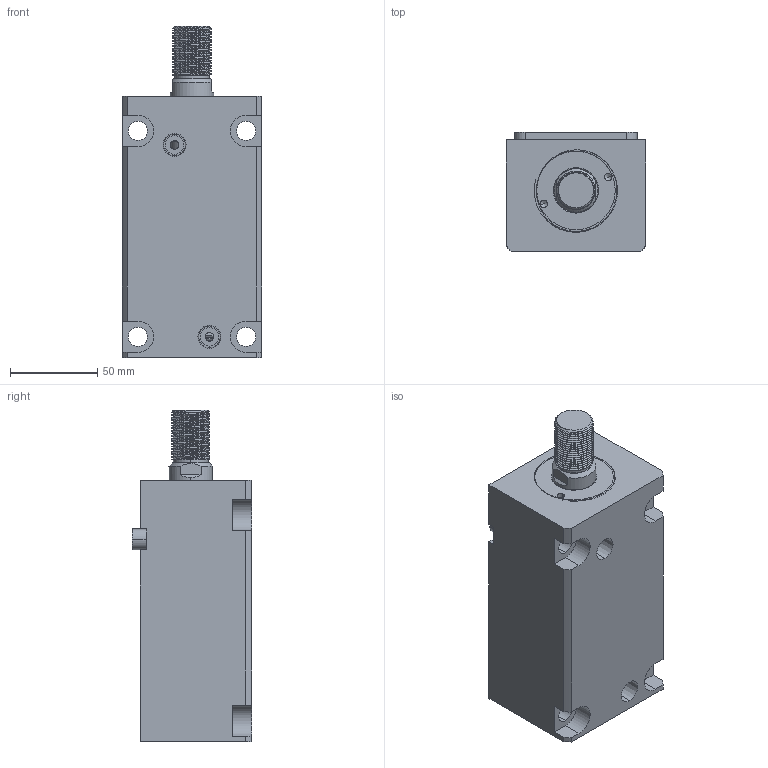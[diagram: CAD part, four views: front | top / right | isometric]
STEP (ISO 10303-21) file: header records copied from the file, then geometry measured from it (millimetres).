
FILE_DESCRIPTION (( 'STEP AP214' ), '1' );
FILE_NAME ('chtb-la40x95w_asm.STEP', '2018-06-02T08:37:52', ( 'Windows' ), ( 'Microsoft' ), 'SwSTEP 2.0', 'SolidWorks 2015', '' );
FILE_SCHEMA (( 'AUTOMOTIVE_DESIGN' ));
Length unit declared in the file: millimetre
Products named in the file (5): CHTB-SD40QG; CHTB-LA40PJ; CHTB-SD40X95WHSG; CHTB-LA40X95NBT; chtb-la40x95w_asm
Assembly tree (4 placements, depth 2):
  chtb-la40x95w_asm
    CHTB-LA40X95NBT
    CHTB-SD40X95WHSG
    CHTB-LA40PJ
    CHTB-SD40QG
Bounding box: 80 x 68.5 x 190 mm (x, y, z)
Volume: 672048.9 mm3; surface area: 114344.8 mm2
Topology: 4 solids, 5 shells, 205 faces, 559 edges, 373 vertices
Faces by surface type: cylinder 111, plane 52, bspline 16, cone 14, torus 12
Entity records: 13775 total; most frequent: CARTESIAN_POINT 8706, ORIENTED_EDGE 1106, DIRECTION 926, EDGE_CURVE 553, VERTEX_POINT 373, AXIS2_PLACEMENT_3D 363, EDGE_LOOP 234, FACE_OUTER_BOUND 205
